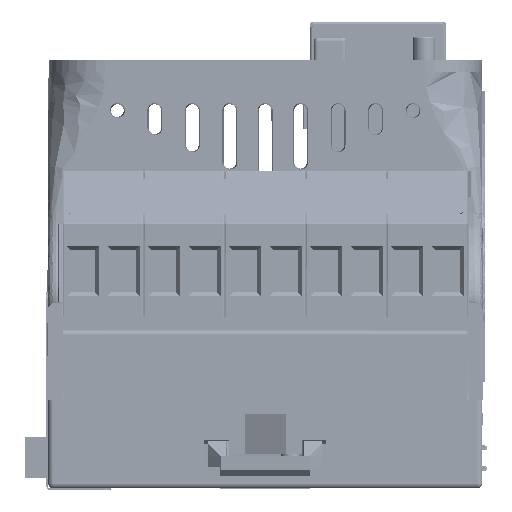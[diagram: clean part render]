
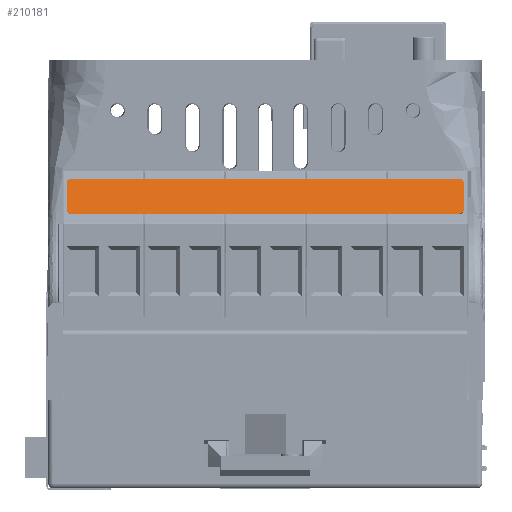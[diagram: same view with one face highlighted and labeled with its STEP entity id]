
A CAD part, front view. The second image highlights one B-rep face of the part: STEP entity #210181.
In plain terms, the highlighted planar face has unit normal (0, -0.951, 0.309).
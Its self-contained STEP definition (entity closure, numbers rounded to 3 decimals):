
#3191=CIRCLE('',#221210,0.5);
#3192=CIRCLE('',#221213,0.5);
#3193=CIRCLE('',#221214,0.5);
#3194=CIRCLE('',#221215,0.5);
#7775=FACE_OUTER_BOUND('',#18424,.T.);
#18424=EDGE_LOOP('',(#135155,#135156,#135157,#135158,#135159,#135160,#135161,
#135162));
#30946=LINE('',#293541,#56727);
#30949=LINE('',#293547,#56730);
#30950=LINE('',#293551,#56731);
#30951=LINE('',#293555,#56732);
#56727=VECTOR('',#238361,10.);
#56730=VECTOR('',#238366,10.);
#56731=VECTOR('',#238369,10.);
#56732=VECTOR('',#238372,10.);
#81988=VERTEX_POINT('',#293534);
#81989=VERTEX_POINT('',#293536);
#81990=VERTEX_POINT('',#293540);
#81992=VERTEX_POINT('',#293546);
#81993=VERTEX_POINT('',#293548);
#81994=VERTEX_POINT('',#293550);
#81995=VERTEX_POINT('',#293552);
#81996=VERTEX_POINT('',#293554);
#102459=EDGE_CURVE('',#81988,#81989,#3191,.T.);
#102461=EDGE_CURVE('',#81989,#81990,#30946,.T.);
#102464=EDGE_CURVE('',#81992,#81988,#30949,.T.);
#102465=EDGE_CURVE('',#81993,#81992,#3192,.T.);
#102466=EDGE_CURVE('',#81994,#81993,#30950,.T.);
#102467=EDGE_CURVE('',#81995,#81994,#3193,.T.);
#102468=EDGE_CURVE('',#81996,#81995,#30951,.T.);
#102469=EDGE_CURVE('',#81990,#81996,#3194,.T.);
#135155=ORIENTED_EDGE('',*,*,#102459,.F.);
#135156=ORIENTED_EDGE('',*,*,#102464,.F.);
#135157=ORIENTED_EDGE('',*,*,#102465,.F.);
#135158=ORIENTED_EDGE('',*,*,#102466,.F.);
#135159=ORIENTED_EDGE('',*,*,#102467,.F.);
#135160=ORIENTED_EDGE('',*,*,#102468,.F.);
#135161=ORIENTED_EDGE('',*,*,#102469,.F.);
#135162=ORIENTED_EDGE('',*,*,#102461,.F.);
#190864=PLANE('',#221212);
#210181=ADVANCED_FACE('',(#7775),#190864,.F.);
#221210=AXIS2_PLACEMENT_3D('',#293537,#238356,#238357);
#221212=AXIS2_PLACEMENT_3D('',#293545,#238364,#238365);
#221213=AXIS2_PLACEMENT_3D('',#293549,#238367,#238368);
#221214=AXIS2_PLACEMENT_3D('',#293553,#238370,#238371);
#221215=AXIS2_PLACEMENT_3D('',#293556,#238373,#238374);
#238356=DIRECTION('center_axis',(0.,0.951,
-0.309));
#238357=DIRECTION('ref_axis',(0.707,0.219,0.672));
#238361=DIRECTION('',(0.,-0.309,-0.951));
#238364=DIRECTION('center_axis',(0.,0.951,
-0.309));
#238365=DIRECTION('ref_axis',(1.,0.,0.));
#238366=DIRECTION('',(1.,0.,0.));
#238367=DIRECTION('center_axis',(0.,0.951,
-0.309));
#238368=DIRECTION('ref_axis',(-0.707,0.219,0.672));
#238369=DIRECTION('',(0.,0.309,0.951));
#238370=DIRECTION('center_axis',(0.,0.951,
-0.309));
#238371=DIRECTION('ref_axis',(-0.707,-0.219,-0.672));
#238372=DIRECTION('',(-1.,0.,0.));
#238373=DIRECTION('center_axis',(0.,0.951,
-0.309));
#238374=DIRECTION('ref_axis',(0.707,-0.219,-0.672));
#293534=CARTESIAN_POINT('',(24.,-42.303,32.204));
#293536=CARTESIAN_POINT('',(24.5,-42.458,31.728));
#293537=CARTESIAN_POINT('Origin',(24.,-42.458,31.728));
#293540=CARTESIAN_POINT('',(24.5,-43.539,28.399));
#293541=CARTESIAN_POINT('',(24.5,-42.303,32.204));
#293545=CARTESIAN_POINT('Origin',(0.,-42.999,
30.064));
#293546=CARTESIAN_POINT('',(-24.,-42.303,32.204));
#293547=CARTESIAN_POINT('',(-24.5,-42.303,32.204));
#293548=CARTESIAN_POINT('',(-24.5,-42.458,31.728));
#293549=CARTESIAN_POINT('Origin',(-24.,-42.458,31.728));
#293550=CARTESIAN_POINT('',(-24.5,-43.539,28.399));
#293551=CARTESIAN_POINT('',(-24.5,-43.694,27.924));
#293552=CARTESIAN_POINT('',(-24.,-43.694,27.924));
#293553=CARTESIAN_POINT('Origin',(-24.,-43.539,28.399));
#293554=CARTESIAN_POINT('',(24.,-43.694,27.924));
#293555=CARTESIAN_POINT('',(24.5,-43.694,27.924));
#293556=CARTESIAN_POINT('Origin',(24.,-43.539,28.399));
